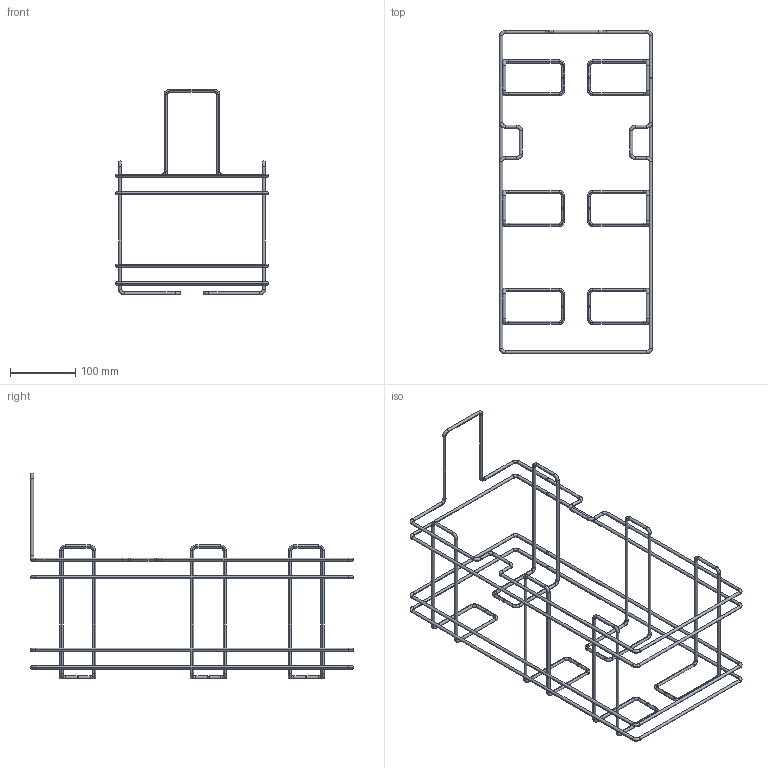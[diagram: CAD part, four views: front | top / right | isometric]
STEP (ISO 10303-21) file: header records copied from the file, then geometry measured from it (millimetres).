
FILE_DESCRIPTION(('CATIA V5 STEP Exchange'),'2;1');
FILE_NAME('D:\OLD\HCS Files\HCS STP\Waste Bin Holder\926998600.stp','2023-05-08T08:06:10+00:00',('none'),('none'),'CATIA Version 5 Release 21 GA (IN-10)','CATIA V5 STEP AP203','none');
FILE_SCHEMA(('CONFIG_CONTROL_DESIGN'));
Length unit declared in the file: millimetre
Products named in the file (1): Part2
Bounding box: 234 x 495 x 315 mm (x, y, z)
Volume: 197120.3 mm3; surface area: 157987.8 mm2
Topology: 10 solids, 10 shells, 336 faces, 652 edges, 336 vertices
Faces by surface type: cylinder 148, torus 128, cone 40, plane 20
Entity records: 7127 total; most frequent: ORIENTED_EDGE 1304, CARTESIAN_POINT 1152, DIRECTION 978, EDGE_CURVE 652, AXIS2_PLACEMENT_3D 628, CIRCLE 464, ADVANCED_FACE 336, EDGE_LOOP 336
